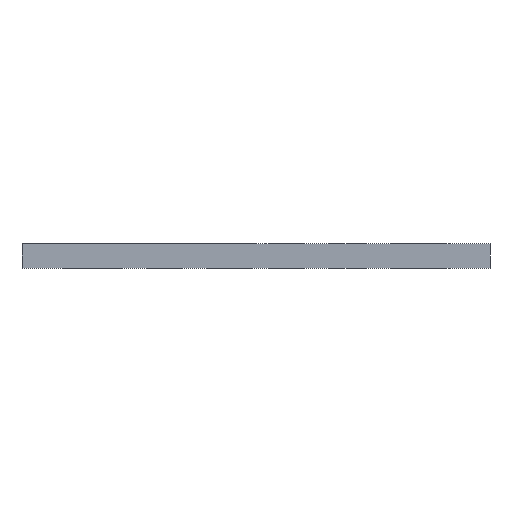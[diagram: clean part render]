
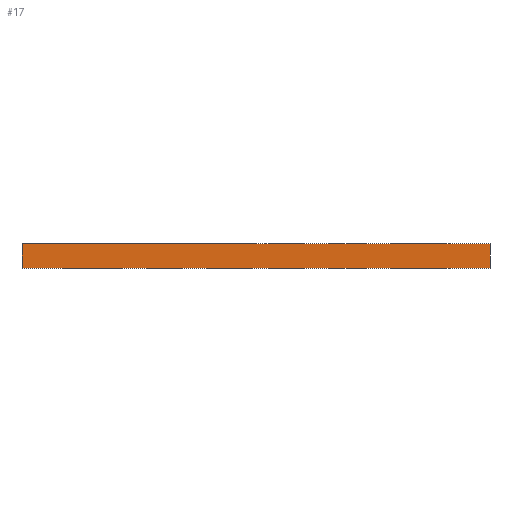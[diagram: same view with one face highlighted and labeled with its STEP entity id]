
A CAD part, left-side view. The second image highlights one B-rep face of the part: STEP entity #17.
In plain terms, the highlighted planar face has unit normal (-1, 0, 0).
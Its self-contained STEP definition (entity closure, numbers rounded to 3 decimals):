
#17 = ADVANCED_FACE('',(#18),#32,.F.);
#18 = FACE_BOUND('',#19,.F.);
#19 = EDGE_LOOP('',(#20,#55,#83,#111));
#20 = ORIENTED_EDGE('',*,*,#21,.F.);
#21 = EDGE_CURVE('',#22,#24,#26,.T.);
#22 = VERTEX_POINT('',#23);
#23 = CARTESIAN_POINT('',(0.,0.,0.));
#24 = VERTEX_POINT('',#25);
#25 = CARTESIAN_POINT('',(0.,0.,2.4));
#26 = SURFACE_CURVE('',#27,(#31,#43),.PCURVE_S1.);
#27 = LINE('',#28,#29);
#28 = CARTESIAN_POINT('',(0.,0.,0.));
#29 = VECTOR('',#30,1.);
#30 = DIRECTION('',(0.,0.,1.));
#31 = PCURVE('',#32,#37);
#32 = PLANE('',#33);
#33 = AXIS2_PLACEMENT_3D('',#34,#35,#36);
#34 = CARTESIAN_POINT('',(0.,0.,0.));
#35 = DIRECTION('',(1.,0.,0.));
#36 = DIRECTION('',(0.,0.,1.));
#37 = DEFINITIONAL_REPRESENTATION('',(#38),#42);
#38 = LINE('',#39,#40);
#39 = CARTESIAN_POINT('',(0.,0.));
#40 = VECTOR('',#41,1.);
#41 = DIRECTION('',(1.,0.));
#42 = ( GEOMETRIC_REPRESENTATION_CONTEXT(2) 
PARAMETRIC_REPRESENTATION_CONTEXT() REPRESENTATION_CONTEXT('2D SPACE',''
  ) );
#43 = PCURVE('',#44,#49);
#44 = PLANE('',#45);
#45 = AXIS2_PLACEMENT_3D('',#46,#47,#48);
#46 = CARTESIAN_POINT('',(0.,0.,0.));
#47 = DIRECTION('',(0.,1.,0.));
#48 = DIRECTION('',(0.,0.,1.));
#49 = DEFINITIONAL_REPRESENTATION('',(#50),#54);
#50 = LINE('',#51,#52);
#51 = CARTESIAN_POINT('',(0.,0.));
#52 = VECTOR('',#53,1.);
#53 = DIRECTION('',(1.,0.));
#54 = ( GEOMETRIC_REPRESENTATION_CONTEXT(2) 
PARAMETRIC_REPRESENTATION_CONTEXT() REPRESENTATION_CONTEXT('2D SPACE',''
  ) );
#55 = ORIENTED_EDGE('',*,*,#56,.T.);
#56 = EDGE_CURVE('',#22,#57,#59,.T.);
#57 = VERTEX_POINT('',#58);
#58 = CARTESIAN_POINT('',(0.,46.,0.));
#59 = SURFACE_CURVE('',#60,(#64,#71),.PCURVE_S1.);
#60 = LINE('',#61,#62);
#61 = CARTESIAN_POINT('',(0.,0.,0.));
#62 = VECTOR('',#63,1.);
#63 = DIRECTION('',(0.,1.,0.));
#64 = PCURVE('',#32,#65);
#65 = DEFINITIONAL_REPRESENTATION('',(#66),#70);
#66 = LINE('',#67,#68);
#67 = CARTESIAN_POINT('',(0.,0.));
#68 = VECTOR('',#69,1.);
#69 = DIRECTION('',(0.,-1.));
#70 = ( GEOMETRIC_REPRESENTATION_CONTEXT(2) 
PARAMETRIC_REPRESENTATION_CONTEXT() REPRESENTATION_CONTEXT('2D SPACE',''
  ) );
#71 = PCURVE('',#72,#77);
#72 = PLANE('',#73);
#73 = AXIS2_PLACEMENT_3D('',#74,#75,#76);
#74 = CARTESIAN_POINT('',(0.,0.,0.));
#75 = DIRECTION('',(0.,0.,1.));
#76 = DIRECTION('',(1.,0.,0.));
#77 = DEFINITIONAL_REPRESENTATION('',(#78),#82);
#78 = LINE('',#79,#80);
#79 = CARTESIAN_POINT('',(0.,0.));
#80 = VECTOR('',#81,1.);
#81 = DIRECTION('',(0.,1.));
#82 = ( GEOMETRIC_REPRESENTATION_CONTEXT(2) 
PARAMETRIC_REPRESENTATION_CONTEXT() REPRESENTATION_CONTEXT('2D SPACE',''
  ) );
#83 = ORIENTED_EDGE('',*,*,#84,.T.);
#84 = EDGE_CURVE('',#57,#85,#87,.T.);
#85 = VERTEX_POINT('',#86);
#86 = CARTESIAN_POINT('',(0.,46.,2.4));
#87 = SURFACE_CURVE('',#88,(#92,#99),.PCURVE_S1.);
#88 = LINE('',#89,#90);
#89 = CARTESIAN_POINT('',(0.,46.,0.));
#90 = VECTOR('',#91,1.);
#91 = DIRECTION('',(0.,0.,1.));
#92 = PCURVE('',#32,#93);
#93 = DEFINITIONAL_REPRESENTATION('',(#94),#98);
#94 = LINE('',#95,#96);
#95 = CARTESIAN_POINT('',(0.,-46.));
#96 = VECTOR('',#97,1.);
#97 = DIRECTION('',(1.,0.));
#98 = ( GEOMETRIC_REPRESENTATION_CONTEXT(2) 
PARAMETRIC_REPRESENTATION_CONTEXT() REPRESENTATION_CONTEXT('2D SPACE',''
  ) );
#99 = PCURVE('',#100,#105);
#100 = PLANE('',#101);
#101 = AXIS2_PLACEMENT_3D('',#102,#103,#104);
#102 = CARTESIAN_POINT('',(0.,46.,0.));
#103 = DIRECTION('',(0.,1.,0.));
#104 = DIRECTION('',(0.,0.,1.));
#105 = DEFINITIONAL_REPRESENTATION('',(#106),#110);
#106 = LINE('',#107,#108);
#107 = CARTESIAN_POINT('',(0.,0.));
#108 = VECTOR('',#109,1.);
#109 = DIRECTION('',(1.,0.));
#110 = ( GEOMETRIC_REPRESENTATION_CONTEXT(2) 
PARAMETRIC_REPRESENTATION_CONTEXT() REPRESENTATION_CONTEXT('2D SPACE',''
  ) );
#111 = ORIENTED_EDGE('',*,*,#112,.F.);
#112 = EDGE_CURVE('',#24,#85,#113,.T.);
#113 = SURFACE_CURVE('',#114,(#118,#125),.PCURVE_S1.);
#114 = LINE('',#115,#116);
#115 = CARTESIAN_POINT('',(0.,0.,2.4));
#116 = VECTOR('',#117,1.);
#117 = DIRECTION('',(0.,1.,0.));
#118 = PCURVE('',#32,#119);
#119 = DEFINITIONAL_REPRESENTATION('',(#120),#124);
#120 = LINE('',#121,#122);
#121 = CARTESIAN_POINT('',(2.4,0.));
#122 = VECTOR('',#123,1.);
#123 = DIRECTION('',(0.,-1.));
#124 = ( GEOMETRIC_REPRESENTATION_CONTEXT(2) 
PARAMETRIC_REPRESENTATION_CONTEXT() REPRESENTATION_CONTEXT('2D SPACE',''
  ) );
#125 = PCURVE('',#126,#131);
#126 = PLANE('',#127);
#127 = AXIS2_PLACEMENT_3D('',#128,#129,#130);
#128 = CARTESIAN_POINT('',(0.,0.,2.4));
#129 = DIRECTION('',(0.,0.,1.));
#130 = DIRECTION('',(1.,0.,0.));
#131 = DEFINITIONAL_REPRESENTATION('',(#132),#136);
#132 = LINE('',#133,#134);
#133 = CARTESIAN_POINT('',(0.,0.));
#134 = VECTOR('',#135,1.);
#135 = DIRECTION('',(0.,1.));
#136 = ( GEOMETRIC_REPRESENTATION_CONTEXT(2) 
PARAMETRIC_REPRESENTATION_CONTEXT() REPRESENTATION_CONTEXT('2D SPACE',''
  ) );
